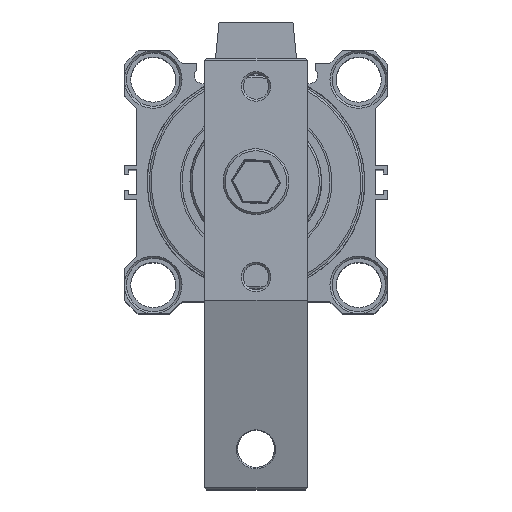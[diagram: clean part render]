
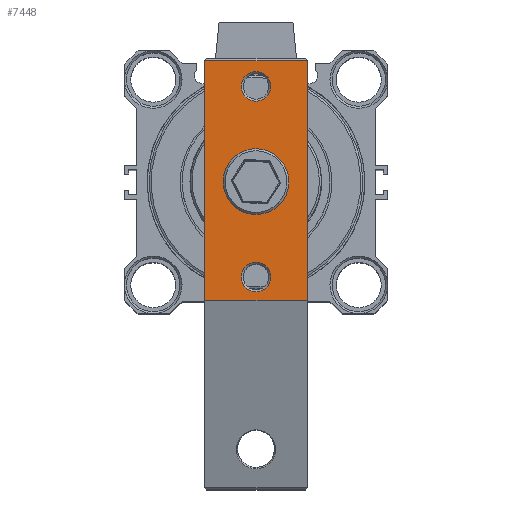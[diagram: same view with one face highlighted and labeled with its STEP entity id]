
A CAD part, top view. The second image highlights one B-rep face of the part: STEP entity #7448.
In plain terms, the highlighted planar face has unit normal (0, 0, 1) as drawn and (0, 1, 0) by its records, which use the part's own axes.
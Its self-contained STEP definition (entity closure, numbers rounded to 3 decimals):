
#253=FACE_BOUND('',#1091,.T.);
#254=FACE_BOUND('',#1092,.T.);
#255=FACE_BOUND('',#1093,.T.);
#320=PLANE('',#8188);
#662=FACE_OUTER_BOUND('',#1090,.T.);
#1090=EDGE_LOOP('',(#5470,#5471,#5472,#5473));
#1091=EDGE_LOOP('',(#5474,#5475));
#1092=EDGE_LOOP('',(#5476,#5477));
#1093=EDGE_LOOP('',(#5478,#5479));
#1522=LINE('',#12700,#2020);
#1535=LINE('',#12752,#2033);
#1536=LINE('',#12754,#2034);
#1537=LINE('',#12755,#2035);
#2020=VECTOR('',#9481,1000.);
#2033=VECTOR('',#9502,1000.);
#2034=VECTOR('',#9503,1000.);
#2035=VECTOR('',#9504,1000.);
#2592=CIRCLE('',#8151,3.6);
#2593=CIRCLE('',#8152,3.6);
#2596=CIRCLE('',#8156,6.75);
#2597=CIRCLE('',#8157,6.75);
#2600=CIRCLE('',#8161,3.6);
#2601=CIRCLE('',#8162,3.6);
#3167=VERTEX_POINT('',#12581);
#3168=VERTEX_POINT('',#12583);
#3171=VERTEX_POINT('',#12591);
#3172=VERTEX_POINT('',#12593);
#3175=VERTEX_POINT('',#12601);
#3176=VERTEX_POINT('',#12603);
#3191=VERTEX_POINT('',#12689);
#3196=VERTEX_POINT('',#12698);
#3209=VERTEX_POINT('',#12751);
#3210=VERTEX_POINT('',#12753);
#4024=EDGE_CURVE('',#3168,#3167,#2592,.T.);
#4025=EDGE_CURVE('',#3167,#3168,#2593,.T.);
#4029=EDGE_CURVE('',#3172,#3171,#2596,.T.);
#4030=EDGE_CURVE('',#3171,#3172,#2597,.T.);
#4034=EDGE_CURVE('',#3176,#3175,#2600,.T.);
#4035=EDGE_CURVE('',#3175,#3176,#2601,.T.);
#4063=EDGE_CURVE('',#3196,#3191,#1522,.T.);
#4077=EDGE_CURVE('',#3209,#3196,#1535,.T.);
#4078=EDGE_CURVE('',#3209,#3210,#1536,.T.);
#4079=EDGE_CURVE('',#3210,#3191,#1537,.T.);
#5470=ORIENTED_EDGE('',*,*,#4077,.F.);
#5471=ORIENTED_EDGE('',*,*,#4078,.T.);
#5472=ORIENTED_EDGE('',*,*,#4079,.T.);
#5473=ORIENTED_EDGE('',*,*,#4063,.F.);
#5474=ORIENTED_EDGE('',*,*,#4034,.T.);
#5475=ORIENTED_EDGE('',*,*,#4035,.T.);
#5476=ORIENTED_EDGE('',*,*,#4029,.T.);
#5477=ORIENTED_EDGE('',*,*,#4030,.T.);
#5478=ORIENTED_EDGE('',*,*,#4024,.T.);
#5479=ORIENTED_EDGE('',*,*,#4025,.T.);
#7448=ADVANCED_FACE('',(#662,#253,#254,#255),#320,.F.);
#8151=AXIS2_PLACEMENT_3D('',#12584,#9399,#9400);
#8152=AXIS2_PLACEMENT_3D('',#12585,#9401,#9402);
#8156=AXIS2_PLACEMENT_3D('',#12594,#9410,#9411);
#8157=AXIS2_PLACEMENT_3D('',#12595,#9412,#9413);
#8161=AXIS2_PLACEMENT_3D('',#12604,#9421,#9422);
#8162=AXIS2_PLACEMENT_3D('',#12605,#9423,#9424);
#8188=AXIS2_PLACEMENT_3D('',#12750,#9500,#9501);
#9399=DIRECTION('center_axis',(0.,-1.,0.));
#9400=DIRECTION('ref_axis',(0.,0.,-1.));
#9401=DIRECTION('center_axis',(0.,-1.,0.));
#9402=DIRECTION('ref_axis',(0.,0.,-1.));
#9410=DIRECTION('center_axis',(0.,-1.,0.));
#9411=DIRECTION('ref_axis',(0.,0.,-1.));
#9412=DIRECTION('center_axis',(0.,-1.,0.));
#9413=DIRECTION('ref_axis',(0.,0.,-1.));
#9421=DIRECTION('center_axis',(0.,-1.,0.));
#9422=DIRECTION('ref_axis',(0.,0.,-1.));
#9423=DIRECTION('center_axis',(0.,-1.,0.));
#9424=DIRECTION('ref_axis',(0.,0.,-1.));
#9481=DIRECTION('',(0.,0.,-1.));
#9500=DIRECTION('center_axis',(0.,-1.,0.));
#9501=DIRECTION('ref_axis',(0.,0.,-1.));
#9502=DIRECTION('',(-1.,0.,0.));
#9503=DIRECTION('',(0.,0.,-1.));
#9504=DIRECTION('',(-1.,0.,0.));
#12581=CARTESIAN_POINT('',(-14622.17,1861.722,8.9));
#12583=CARTESIAN_POINT('',(-14622.17,1861.722,16.1));
#12584=CARTESIAN_POINT('Origin',(-14622.17,1861.722,12.5));
#12585=CARTESIAN_POINT('Origin',(-14622.17,1861.722,12.5));
#12591=CARTESIAN_POINT('',(-14598.97,1861.722,5.75));
#12593=CARTESIAN_POINT('',(-14598.97,1861.722,19.25));
#12594=CARTESIAN_POINT('Origin',(-14598.97,1861.722,12.5));
#12595=CARTESIAN_POINT('Origin',(-14598.97,1861.722,12.5));
#12601=CARTESIAN_POINT('',(-14575.77,1861.722,8.9));
#12603=CARTESIAN_POINT('',(-14575.77,1861.722,16.1));
#12604=CARTESIAN_POINT('Origin',(-14575.77,1861.722,12.5));
#12605=CARTESIAN_POINT('Origin',(-14575.77,1861.722,12.5));
#12689=CARTESIAN_POINT('',(-14627.805,1861.722,0.));
#12698=CARTESIAN_POINT('',(-14627.805,1861.722,25.));
#12700=CARTESIAN_POINT('',(-14627.805,1861.722,25.));
#12750=CARTESIAN_POINT('Origin',(-14568.97,1861.722,25.));
#12751=CARTESIAN_POINT('',(-14569.47,1861.722,25.));
#12752=CARTESIAN_POINT('',(-14568.97,1861.722,25.));
#12753=CARTESIAN_POINT('',(-14569.47,1861.722,0.));
#12754=CARTESIAN_POINT('',(-14569.47,1861.722,25.));
#12755=CARTESIAN_POINT('',(-14568.97,1861.722,0.));
